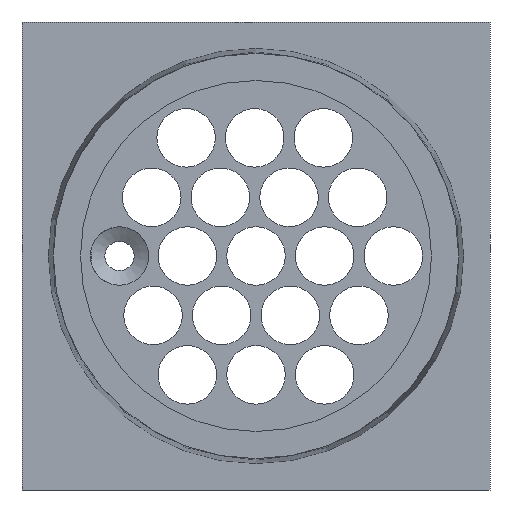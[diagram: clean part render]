
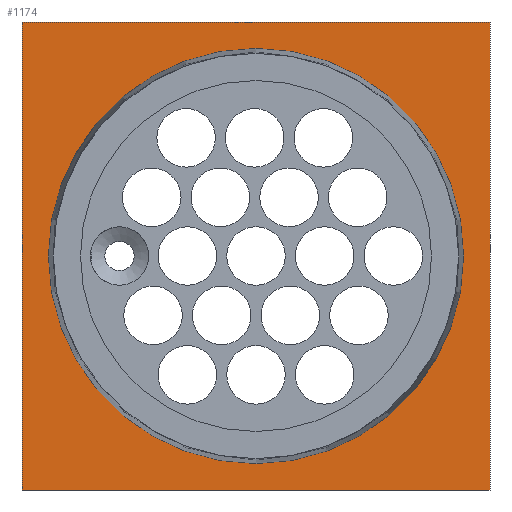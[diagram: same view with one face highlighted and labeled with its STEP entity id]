
A CAD part, left-side view. The second image highlights one B-rep face of the part: STEP entity #1174.
In plain terms, the highlighted planar face has unit normal (-1, 0, 0).
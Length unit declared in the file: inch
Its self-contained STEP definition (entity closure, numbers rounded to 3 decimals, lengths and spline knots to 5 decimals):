
#56=FACE_BOUND('',#268,.T.);
#73=PLANE('',#1348);
#170=FACE_OUTER_BOUND('',#267,.T.);
#267=EDGE_LOOP('',(#1060,#1061,#1062,#1063));
#268=EDGE_LOOP('',(#1064));
#332=LINE('',#2161,#390);
#333=LINE('',#2163,#391);
#334=LINE('',#2165,#392);
#335=LINE('',#2166,#393);
#390=VECTOR('',#1698,0.3937);
#391=VECTOR('',#1699,0.3937);
#392=VECTOR('',#1700,0.3937);
#393=VECTOR('',#1701,0.3937);
#494=CIRCLE('',#1336,0.4435);
#606=VERTEX_POINT('',#2135);
#613=VERTEX_POINT('',#2159);
#614=VERTEX_POINT('',#2160);
#615=VERTEX_POINT('',#2162);
#616=VERTEX_POINT('',#2164);
#762=EDGE_CURVE('',#606,#606,#494,.T.);
#772=EDGE_CURVE('',#613,#614,#332,.T.);
#773=EDGE_CURVE('',#614,#615,#333,.T.);
#774=EDGE_CURVE('',#616,#615,#334,.T.);
#775=EDGE_CURVE('',#613,#616,#335,.T.);
#1060=ORIENTED_EDGE('',*,*,#772,.T.);
#1061=ORIENTED_EDGE('',*,*,#773,.T.);
#1062=ORIENTED_EDGE('',*,*,#774,.F.);
#1063=ORIENTED_EDGE('',*,*,#775,.F.);
#1064=ORIENTED_EDGE('',*,*,#762,.F.);
#1174=ADVANCED_FACE('',(#170,#56),#73,.T.);
#1336=AXIS2_PLACEMENT_3D('',#2137,#1669,#1670);
#1348=AXIS2_PLACEMENT_3D('',#2158,#1696,#1697);
#1669=DIRECTION('center_axis',(-1.,0.,0.));
#1670=DIRECTION('ref_axis',(0.,0.,-1.));
#1696=DIRECTION('center_axis',(-1.,0.,0.));
#1697=DIRECTION('ref_axis',(0.,-1.,0.));
#1698=DIRECTION('',(0.,-1.,0.));
#1699=DIRECTION('',(0.,0.,1.));
#1700=DIRECTION('',(0.,-1.,0.));
#1701=DIRECTION('',(0.,0.,1.));
#2135=CARTESIAN_POINT('',(0.,0.5,0.9435));
#2137=CARTESIAN_POINT('Origin',(0.,0.5,
0.5));
#2158=CARTESIAN_POINT('Origin',(0.,1.,0.));
#2159=CARTESIAN_POINT('',(0.,1.,0.));
#2160=CARTESIAN_POINT('',(0.,0.,0.));
#2161=CARTESIAN_POINT('',(0.,1.,0.));
#2162=CARTESIAN_POINT('',(0.,0.,1.));
#2163=CARTESIAN_POINT('',(0.,0.,0.));
#2164=CARTESIAN_POINT('',(0.,1.,1.));
#2165=CARTESIAN_POINT('',(0.,1.,1.));
#2166=CARTESIAN_POINT('',(0.,1.,0.));
